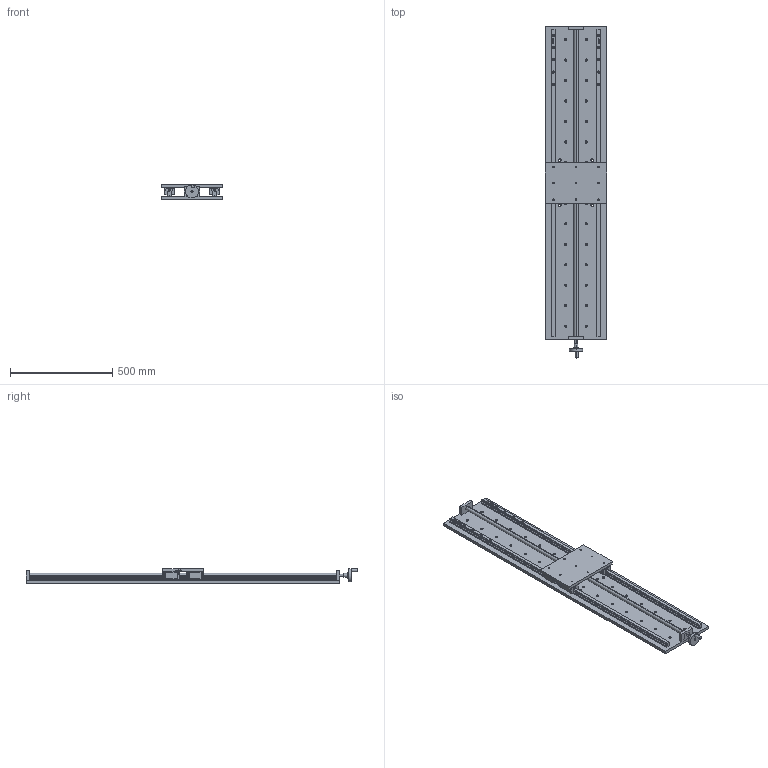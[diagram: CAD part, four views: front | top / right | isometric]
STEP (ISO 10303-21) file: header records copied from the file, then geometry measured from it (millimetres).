
FILE_DESCRIPTION (( 'STEP AP214' ), '1' );
FILE_NAME ('PT300-1300.STEP', '2022-09-18T06:29:42', ( '' ), ( '' ), 'SwSTEP 2.0', 'SolidWorks 2017', '' );
FILE_SCHEMA (( 'AUTOMOTIVE_DESIGN' ));
Length unit declared in the file: millimetre
Products named in the file (12): 菁啣-1300; PT300-1300; 標踡輸; HGH25C__X2_53F35C01_X0__temp; HGR25_temp-1300; 醱啣; 忒謫; HGH25C__X2_5DE65C01_X0__temp; 34320001; HGH25CA2R300Z0C_GW202204023669; 標踡; M6H
Assembly tree (12 placements, depth 3):
  PT300-1300
    菁啣-1300
    醱啣
    HGH25CA2R300Z0C_GW202204023669  x2
      HGR25_temp-1300
      HGH25C__X2_53F35C01_X0__temp
      M6H
      HGH25C__X2_5DE65C01_X0__temp
      34320001
    標踡
      標踡輸
      忒謫
Bounding box: 300 x 1622.1 x 70.06 mm (x, y, z)
Volume: 10093025.1 mm3; surface area: 1655778.6 mm2
Topology: 31 solids, 33 shells, 3119 faces, 8710 edges, 5750 vertices
Faces by surface type: plane 2007, cylinder 846, bspline 202, cone 56, torus 8
Entity records: 76353 total; most frequent: CARTESIAN_POINT 15256, ORIENTED_EDGE 9760, DIRECTION 8940, EDGE_CURVE 4880, LINE 3470, VECTOR 3470, VERTEX_POINT 3239, AXIS2_PLACEMENT_3D 2735
